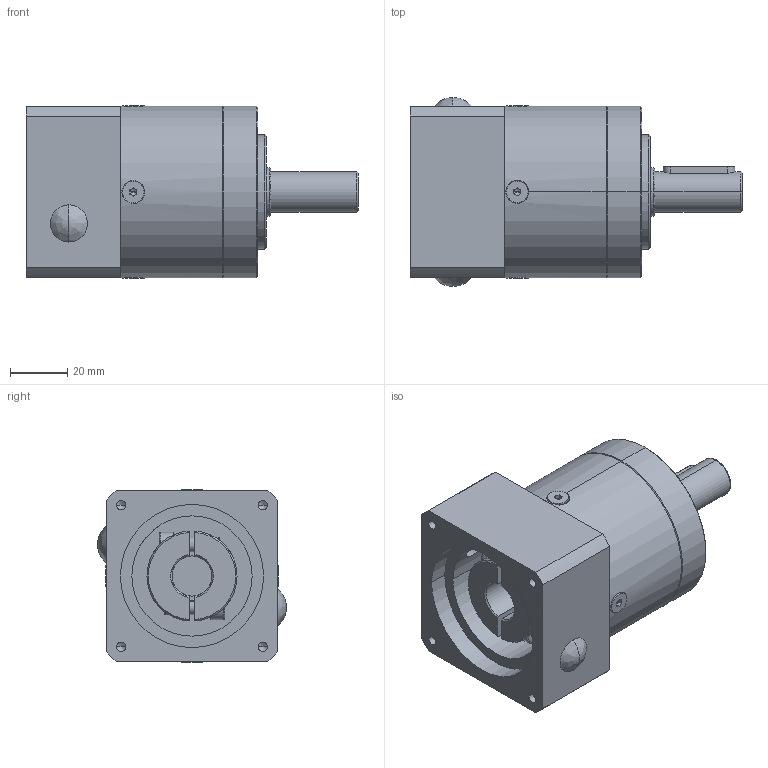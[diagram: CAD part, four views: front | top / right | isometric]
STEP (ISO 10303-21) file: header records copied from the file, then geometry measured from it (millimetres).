
FILE_DESCRIPTION (( 'STEP AP214' ), '1' );
FILE_NAME ('PLE-060-L1-S2-P2 514-50-70-M4.STEP', '2023-08-21T02:38:52', ( '微软用户' ), ( '微软中国' ), 'SwSTEP 2.0', 'SolidWorks 2018', '' );
FILE_SCHEMA (( 'AUTOMOTIVE_DESIGN' ));
Length unit declared in the file: millimetre
Products named in the file (8): PLE-060一级内齿圈-外形; PLE-060黑裔9; hexagon socket countersunk head screws gb_GB_FASTENER_SCREWS_HSCHS M4X8-N; PLE-060输入端盖-外形50-M4-70; PLE-060薊粣ん-俋倛14; PLE-060埴怀堤傷裔-俋倛; PLE-060-L1-S2-P2 514-50-70-M4; hexagon socket head cap screws gb_GB_FASTENER_SCREWS_HSHCS M5X16-N
Assembly tree (12 placements, depth 2):
  PLE-060-L1-S2-P2 514-50-70-M4
    PLE-060一级内齿圈-外形
    PLE-060埴怀堤傷裔-俋倛
    PLE-060输入端盖-外形50-M4-70
    PLE-060薊粣ん-俋倛14
    hexagon socket head cap screws gb_GB_FASTENER_SCREWS_HSHCS M5X16-N  x2
    PLE-060黑裔9  x2
    hexagon socket countersunk head screws gb_GB_FASTENER_SCREWS_HSCHS M4X8-N  x4
Bounding box: 116 x 66 x 60.36 mm (x, y, z)
Volume: 162674.9 mm3; surface area: 51716.3 mm2
Topology: 12 solids, 12 shells, 380 faces, 906 edges, 543 vertices
Faces by surface type: plane 144, cylinder 125, cone 79, bspline 32
Entity records: 8635 total; most frequent: CARTESIAN_POINT 2433, DIRECTION 1279, ORIENTED_EDGE 1184, EDGE_CURVE 592, AXIS2_PLACEMENT_3D 507, VERTEX_POINT 374, EDGE_LOOP 296, VECTOR 265
